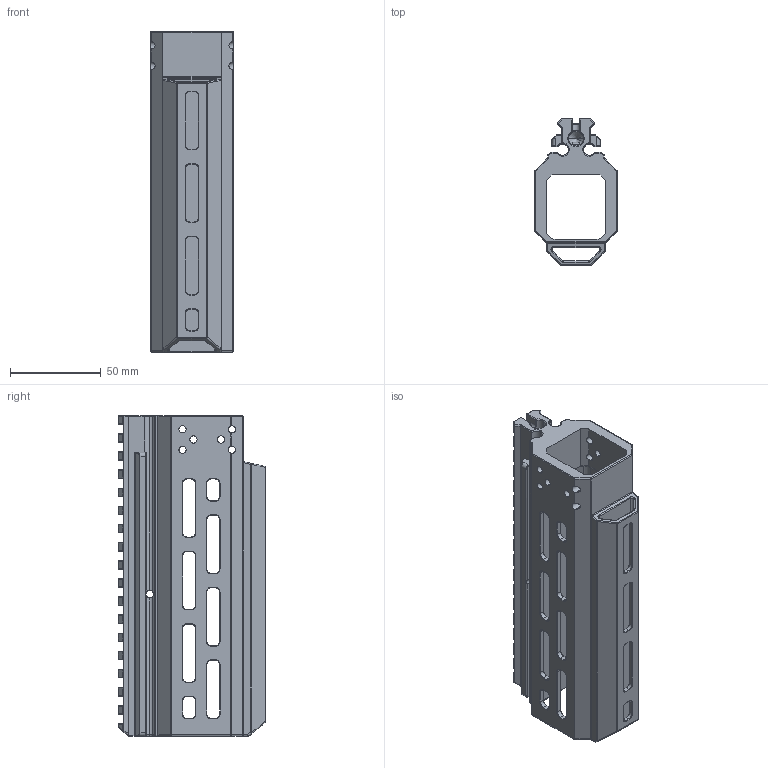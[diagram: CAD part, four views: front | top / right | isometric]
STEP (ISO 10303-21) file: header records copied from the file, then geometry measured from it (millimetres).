
FILE_DESCRIPTION (( 'STEP AP203' ), '1' );
FILE_NAME ('PISTOL LENGTH FREE FLOAT 351322 10-17-20.STEP', '2020-10-17T20:18:52', ( '' ), ( '' ), 'SwSTEP 2.0', 'SolidWorks 2014', '' );
FILE_SCHEMA (( 'CONFIG_CONTROL_DESIGN' ));
Length unit declared in the file: millimetre
Products named in the file (2): PISTOL LENGTH FREE FLOAT 351322 10-17-20
Bounding box: 45.5 x 81.25 x 177 mm (x, y, z)
Volume: 160165.2 mm3; surface area: 85665.5 mm2
Topology: 1 solids, 1 shells, 1592 faces, 3899 edges, 2249 vertices
Faces by surface type: cylinder 735, torus 447, plane 318, bspline 51, sphere 39, cone 2
Entity records: 48569 total; most frequent: CARTESIAN_POINT 10645, DIRECTION 8653, ORIENTED_EDGE 7706, EDGE_CURVE 3853, AXIS2_PLACEMENT_3D 3515, VERTEX_POINT 2249, CIRCLE 1972, EDGE_LOOP 1648
